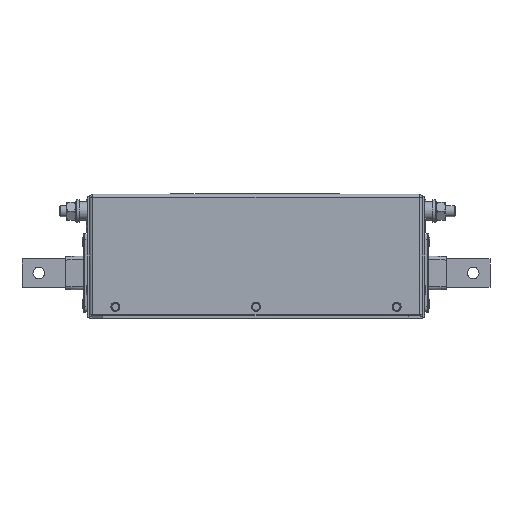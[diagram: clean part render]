
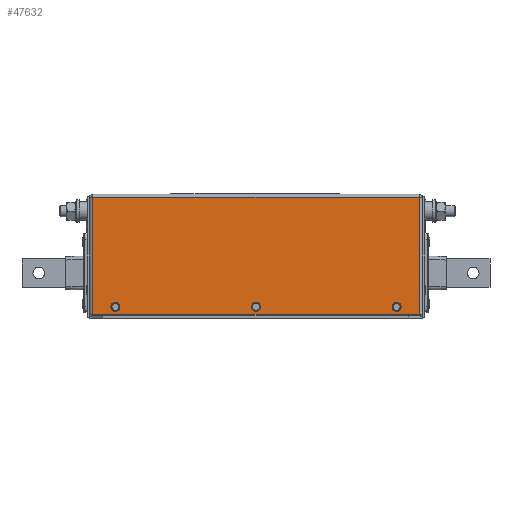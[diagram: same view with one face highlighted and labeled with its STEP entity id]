
A CAD part, front view. The second image highlights one B-rep face of the part: STEP entity #47632.
In plain terms, the highlighted free-form (B-spline) face has degree [1, 1] with [2, 2] control points.
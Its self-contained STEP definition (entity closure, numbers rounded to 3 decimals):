
#681=CARTESIAN_POINT('',(121.0,-70.0,10.0));
#682=VERTEX_POINT('',#681);
#683=CARTESIAN_POINT('',(125.0,-70.0,10.0));
#684=DIRECTION('',(0.0,1.0,0.0));
#685=DIRECTION('',(-1.0,0.0,0.0));
#686=AXIS2_PLACEMENT_3D('',#683,#684,#685);
#687=CIRCLE('',#686,4.0);
#688=EDGE_CURVE('',#682,#682,#687,.T.);
#865=CARTESIAN_POINT('',(-4.0,-70.0,10.0));
#866=VERTEX_POINT('',#865);
#867=CARTESIAN_POINT('',(0.,-70.0,10.0));
#868=DIRECTION('',(0.0,1.0,0.0));
#869=DIRECTION('',(-1.0,0.0,0.0));
#870=AXIS2_PLACEMENT_3D('',#867,#868,#869);
#871=CIRCLE('',#870,4.0);
#872=EDGE_CURVE('',#866,#866,#871,.T.);
#1049=CARTESIAN_POINT('',(-129.0,-70.0,10.0));
#1050=VERTEX_POINT('',#1049);
#1051=CARTESIAN_POINT('',(-125.0,-70.0,10.0));
#1052=DIRECTION('',(0.0,1.0,0.0));
#1053=DIRECTION('',(-1.0,0.0,0.0));
#1054=AXIS2_PLACEMENT_3D('',#1051,#1052,#1053);
#1055=CIRCLE('',#1054,4.0);
#1056=EDGE_CURVE('',#1050,#1050,#1055,.T.);
#47073=CARTESIAN_POINT('',(-145.2,-70.,107.2));
#47074=VERTEX_POINT('',#47073);
#47309=CARTESIAN_POINT('',(-145.2,-70.0,2.8));
#47310=VERTEX_POINT('',#47309);
#47351=CARTESIAN_POINT('',(-145.2,-70.,107.2));
#47352=DIRECTION('',(0.0,0.0,-1.0));
#47353=VECTOR('',#47352,104.4);
#47354=LINE('',#47351,#47353);
#47355=EDGE_CURVE('',#47074,#47310,#47354,.T.);
#47593=CARTESIAN_POINT('',(145.2,-70.0,2.8));
#47594=CARTESIAN_POINT('',(145.2,-70.,107.2));
#47595=CARTESIAN_POINT('',(-145.2,-70.0,2.8));
#47596=CARTESIAN_POINT('',(-145.2,-70.0,107.2));
#47597=B_SPLINE_SURFACE_WITH_KNOTS('',1,1,((#47593,#47595),(#47594,#47596)),.UNSPECIFIED.,.F.,.F.,.U.,(2,2),(2,2),(0.0,104.4),(0.0,290.4),.UNSPECIFIED.);
#47598=CARTESIAN_POINT('',(145.2,-70.,107.2));
#47599=VERTEX_POINT('',#47598);
#47600=CARTESIAN_POINT('',(145.2,-70.,107.2));
#47601=DIRECTION('',(-1.0,0.0,0.0));
#47602=VECTOR('',#47601,290.4);
#47603=LINE('',#47600,#47602);
#47604=EDGE_CURVE('',#47599,#47074,#47603,.T.);
#47605=ORIENTED_EDGE('',*,*,#47604,.T.);
#47606=ORIENTED_EDGE('',*,*,#47355,.T.);
#47607=CARTESIAN_POINT('',(145.2,-70.0,2.8));
#47608=VERTEX_POINT('',#47607);
#47609=CARTESIAN_POINT('',(145.2,-70.0,2.8));
#47610=DIRECTION('',(-1.0,0.0,0.0));
#47611=VECTOR('',#47610,290.4);
#47612=LINE('',#47609,#47611);
#47613=EDGE_CURVE('',#47608,#47310,#47612,.T.);
#47614=ORIENTED_EDGE('',*,*,#47613,.F.);
#47615=CARTESIAN_POINT('',(145.2,-70.,107.2));
#47616=DIRECTION('',(0.0,0.0,-1.0));
#47617=VECTOR('',#47616,104.4);
#47618=LINE('',#47615,#47617);
#47619=EDGE_CURVE('',#47599,#47608,#47618,.T.);
#47620=ORIENTED_EDGE('',*,*,#47619,.F.);
#47621=EDGE_LOOP('',(#47605,#47606,#47614,#47620));
#47622=FACE_OUTER_BOUND('',#47621,.T.);
#47623=ORIENTED_EDGE('',*,*,#688,.T.);
#47624=EDGE_LOOP('',(#47623));
#47625=FACE_BOUND('',#47624,.T.);
#47626=ORIENTED_EDGE('',*,*,#872,.T.);
#47627=EDGE_LOOP('',(#47626));
#47628=FACE_BOUND('',#47627,.T.);
#47629=ORIENTED_EDGE('',*,*,#1056,.T.);
#47630=EDGE_LOOP('',(#47629));
#47631=FACE_BOUND('',#47630,.T.);
#47632=ADVANCED_FACE('',(#47622,#47625,#47628,#47631),#47597,.T.);
